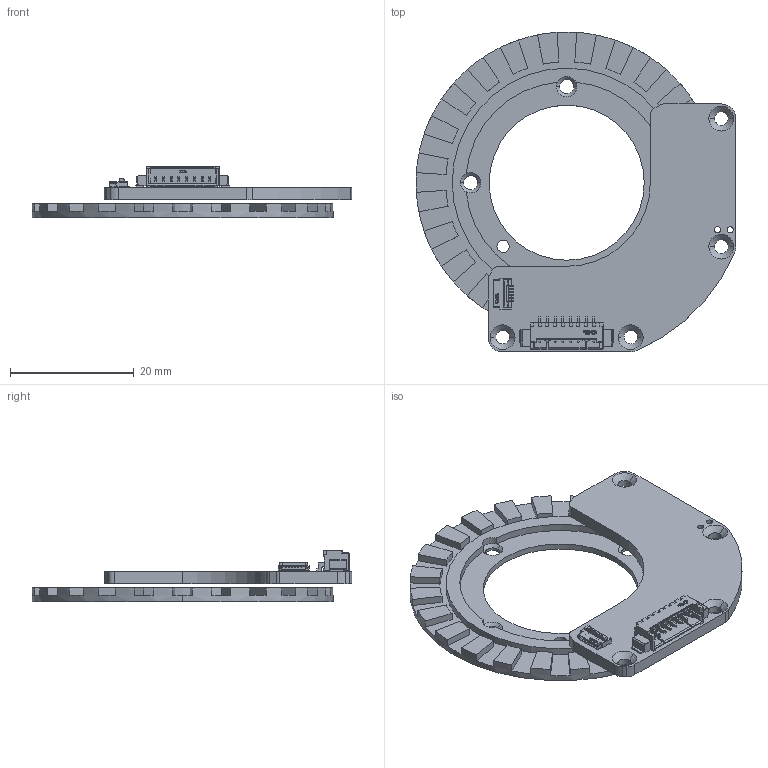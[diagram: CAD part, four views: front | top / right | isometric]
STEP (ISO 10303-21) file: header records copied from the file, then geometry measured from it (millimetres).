
FILE_DESCRIPTION((''),'2;1');
FILE_NAME('SAB049_REV_1_8_ASM','2025-05-06T',('ol'),(''),'PRO/ENGINEER BY PARAMETRIC TECHNOLOGY CORPORATION, 2017170','PRO/ENGINEER BY PARAMETRIC TECHNOLOGY CORPORATION, 2017170','');
FILE_SCHEMA(('CONFIG_CONTROL_DESIGN'));
Products named in the file (72): PRT0190_AF0; PRT0191; PRT0192; PRT0193; PRT0194; PRT0195; PRT0196; PRT0197; PRT0198; PRT0199; PRT0200; PRT0201; PRT0202; PRT0203; PRT0204; PRT0205; PRT0206; ASM0049_ASM; CN2_ASM_1_ASM; PRT0207; PRT0208; PRT0209; PRT0210; PRT0211; PRT0212; PRT0213; PRT0214; PRT0215; PRT0216; PRT0217; PRT0218; PRT0219; PRT0220; PRT0221; PRT0222; PRT0223; PRT0224; PRT0225; PRT0226; PRT0227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
Assembly tree (71 placements, depth 6):
  SAB049_REV_1_8_ASM
    SAB049_REV_1_8_ASM_ASM
      ASM0048_AF0_ASM
        PRT0190_AF0
        CN2_ASM_1_ASM
          ASM0049_ASM
            PRT0191
            PRT0192
            PRT0193
            PRT0194
            PRT0195
            PRT0196
            PRT0197
            PRT0198
            PRT0199
            PRT0200
            PRT0201
            PRT0202
            PRT0203
            PRT0204
            PRT0205
            PRT0206
        FPC2_ASM_1_ASM
          ASM0050_ASM
            PRT0207
            PRT0208
            PRT0209
            PRT0210
            PRT0211
            PRT0212
            PRT0213
            PRT0214
            PRT0215
            PRT0216
            PRT0217
            PRT0218
            PRT0219
            PRT0220
            PRT0221
            PRT0222
            PRT0223
            PRT0224
            PRT0225
            PRT0226
            PRT0227
            PRT0228
            PRT0229
            PRT0230
            PRT0231
            PRT0232
            PRT0233
            PRT0234
            PRT0235
            PRT0236
            PRT0237
            PRT0238
            PRT0239
            PRT0240
            PRT0241
            PRT0242
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Bounding box: 51.61 x 51.61 x 8.25 mm (x, y, z)
Volume: 3758.9 mm3; surface area: 6133.2 mm2
Topology: 65 solids, 65 shells, 1591 faces, 4195 edges, 2763 vertices
Faces by surface type: plane 1086, extrusion 250, cylinder 233, cone 16, bspline 4, sphere 2
Entity records: 60251 total; most frequent: CARTESIAN_POINT 20193, ORIENTED_EDGE 8386, DIRECTION 7214, EDGE_CURVE 4193, VECTOR 3440, LINE 3190, VERTEX_POINT 2763, AXIS2_PLACEMENT_3D 1887
